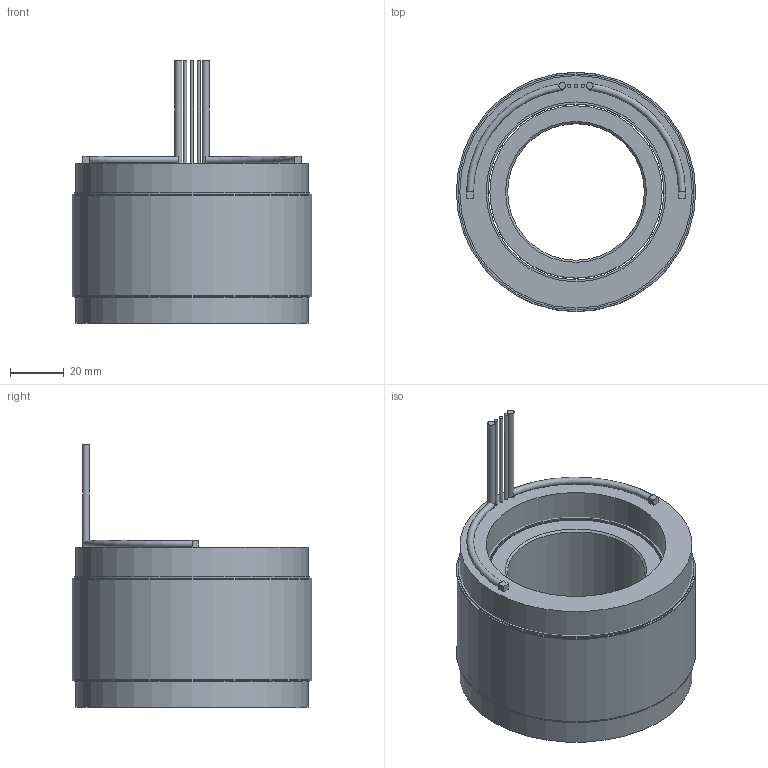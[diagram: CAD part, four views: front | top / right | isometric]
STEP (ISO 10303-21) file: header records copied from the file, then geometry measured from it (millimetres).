
FILE_DESCRIPTION (( 'STEP AP214' ), '1' );
FILE_NAME ('6100378-02.STEP', '2020-06-23T15:55:44', ( '' ), ( '' ), 'SwSTEP 2.0', 'SolidWorks 2016', '' );
FILE_SCHEMA (( 'AUTOMOTIVE_DESIGN' ));
Length unit declared in the file: inch
Products named in the file (10): 4500552-XX_4500552-02; 6100378-02; 4400100-00; 4600562-00; 4250372-XX_4250372-02; 4450187-XX_4450187-02; comp4500552-XX(COIL)_comp4500552-02(COIL); 4150176-XX_4150176-02
Assembly tree (10 placements, depth 4):
  6100378-02
    4500552-XX_4500552-02
      4450187-XX_4450187-02
        4450187-XX_4450187-02
        4400100-00
        4400100-00
        4600562-00  x2
      comp4500552-XX(COIL)_comp4500552-02(COIL)
    4250372-XX_4250372-02
      4150176-XX_4150176-02
Bounding box: 88.9 x 88.9 x 97.54 mm (x, y, z)
Volume: 297968.6 mm3; surface area: 98197.5 mm2
Topology: 11 solids, 11 shells, 58 faces, 91 edges, 60 vertices
Faces by surface type: plane 35, cylinder 19, torus 2, cone 2
Full cylindrical faces by diameter (mm): 1.27 x3, 2.54 x2, 50.8 x1, 64.008 x1, 65.278 x5, 66.801 x1, 86.36 x1, 87.63 x2, 88.9 x3
Entity records: 1612 total; most frequent: DIRECTION 244, CARTESIAN_POINT 190, ORIENTED_EDGE 128, AXIS2_PLACEMENT_3D 110, EDGE_LOOP 92, FACE_OUTER_BOUND 73, EDGE_CURVE 64, VERTEX_POINT 56
